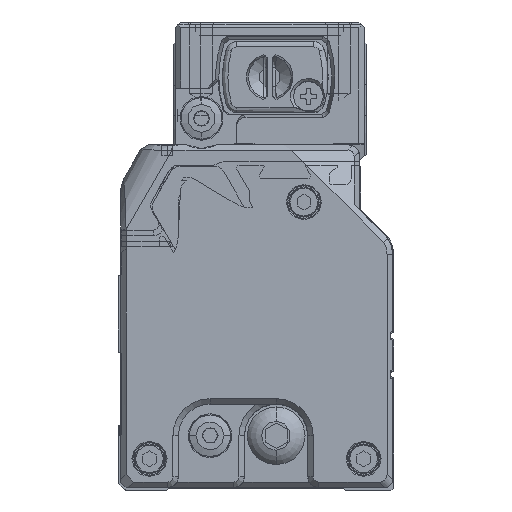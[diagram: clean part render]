
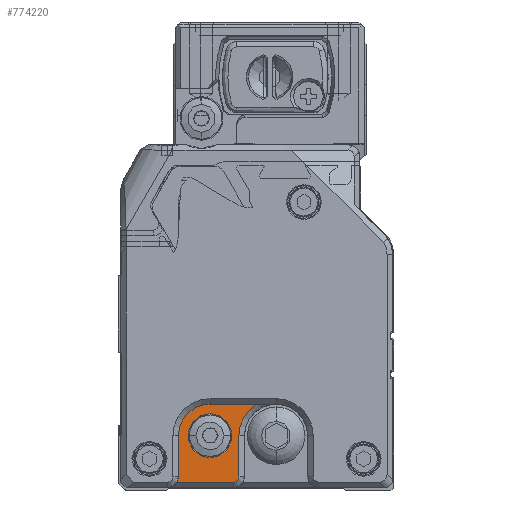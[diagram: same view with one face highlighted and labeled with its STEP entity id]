
A CAD part, left-side view. The second image highlights one B-rep face of the part: STEP entity #774220.
In plain terms, the highlighted planar face has unit normal (-1, 0, 0) as drawn and (1, 0, 0) by its records, which use the part's own axes.
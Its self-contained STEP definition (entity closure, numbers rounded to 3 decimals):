
#772670=CARTESIAN_POINT('',(4264.177,2.462,
3.148));
#772680=DIRECTION('',(-1.,0.,0.));
#772690=DIRECTION('',(0.,1.,0.));
#772700=AXIS2_PLACEMENT_3D('',#772670,#772680,#772690);
#772710=CIRCLE('',#772700,5.75);
#772720=CARTESIAN_POINT('',(4264.177,8.212,
3.148));
#772730=VERTEX_POINT('',#772720);
#772740=CARTESIAN_POINT('',(4264.177,2.462,
-2.602));
#772750=VERTEX_POINT('',#772740);
#772760=EDGE_CURVE('',#772730,#772750,#772710,.T.);
#773170=CARTESIAN_POINT('',(4264.177,8.212,
3.148));
#773180=DIRECTION('',(0.,0.,1.));
#773190=VECTOR('',#773180,1.);
#773200=LINE('',#773170,#773190);
#773210=CARTESIAN_POINT('',(4264.177,8.212,
10.598));
#773220=VERTEX_POINT('',#773210);
#773230=EDGE_CURVE('',#772730,#773220,#773200,.T.);
#773490=CARTESIAN_POINT('',(4264.177,-5.938,
-12.8));
#773500=DIRECTION('',(-1.,0.,0.));
#773510=DIRECTION('',(0.,0.,-1.));
#773520=AXIS2_PLACEMENT_3D('',#773490,#773500,#773510);
#773530=PLANE('',#773520);
#773540=CARTESIAN_POINT('',(4264.177,4.212,
11.598));
#773550=DIRECTION('',(0.,-1.,0.));
#773560=VECTOR('',#773550,1.);
#773570=LINE('',#773540,#773560);
#773580=CARTESIAN_POINT('',(4264.177,8.48,
11.598));
#773590=VERTEX_POINT('',#773580);
#773600=CARTESIAN_POINT('',(4264.177,-1.788,
11.598));
#773610=VERTEX_POINT('',#773600);
#773620=EDGE_CURVE('',#773590,#773610,#773570,.T.);
#773630=ORIENTED_EDGE('',*,*,#773620,.T.);
#773640=CARTESIAN_POINT('',(4264.177,10.212,
10.598));
#773650=DIRECTION('',(-1.,0.,0.));
#773660=DIRECTION('',(0.,1.,0.));
#773670=AXIS2_PLACEMENT_3D('',#773640,#773650,#773660);
#773680=CIRCLE('',#773670,2.);
#773690=EDGE_CURVE('',#773220,#773590,#773680,.T.);
#773700=ORIENTED_EDGE('',*,*,#773690,.T.);
#773710=ORIENTED_EDGE('',*,*,#773230,.T.);
#773720=ORIENTED_EDGE('',*,*,#772760,.F.);
#773730=CARTESIAN_POINT('',(4264.177,-5.888,
-2.602));
#773740=DIRECTION('',(0.,1.,0.));
#773750=VECTOR('',#773740,1.);
#773760=LINE('',#773730,#773750);
#773770=CARTESIAN_POINT('',(4264.177,-6.002,
-2.602));
#773780=VERTEX_POINT('',#773770);
#773790=EDGE_CURVE('',#773780,#772750,#773760,.T.);
#773800=ORIENTED_EDGE('',*,*,#773790,.T.);
#773810=CARTESIAN_POINT('',(4264.177,-9.538,
3.148));
#773820=DIRECTION('',(-1.,0.,0.));
#773830=DIRECTION('',(0.,1.,0.));
#773840=AXIS2_PLACEMENT_3D('',#773810,#773820,#773830);
#773850=CIRCLE('',#773840,6.75);
#773860=CARTESIAN_POINT('',(4264.177,-2.788,
3.148));
#773870=VERTEX_POINT('',#773860);
#773880=EDGE_CURVE('',#773870,#773780,#773850,.T.);
#773890=ORIENTED_EDGE('',*,*,#773880,.T.);
#773900=CARTESIAN_POINT('',(4264.177,-2.788,
6.873));
#773910=DIRECTION('',(0.,0.,-1.));
#773920=VECTOR('',#773910,1.);
#773930=LINE('',#773900,#773920);
#773940=CARTESIAN_POINT('',(4264.177,-2.788,
10.598));
#773950=VERTEX_POINT('',#773940);
#773960=EDGE_CURVE('',#773950,#773870,#773930,.T.);
#773970=ORIENTED_EDGE('',*,*,#773960,.T.);
#773980=CARTESIAN_POINT('',(4264.177,-1.788,
10.598));
#773990=DIRECTION('',(-1.,0.,0.));
#774000=DIRECTION('',(0.,1.,0.));
#774010=AXIS2_PLACEMENT_3D('',#773980,#773990,#774000);
#774020=CIRCLE('',#774010,1.);
#774030=EDGE_CURVE('',#773950,#773610,#774020,.T.);
#774040=ORIENTED_EDGE('',*,*,#774030,.F.);
#774050=EDGE_LOOP('',(#774040,#773970,#773890,#773800,#773720,#773710,
#773700,#773630));
#774060=FACE_OUTER_BOUND('',#774050,.T.);
#774070=CARTESIAN_POINT('',(4264.177,2.462,
3.148));
#774080=DIRECTION('',(-1.,0.,0.));
#774090=DIRECTION('',(0.,0.,-1.));
#774100=AXIS2_PLACEMENT_3D('',#774070,#774080,#774090);
#774110=CIRCLE('',#774100,4.);
#774120=CARTESIAN_POINT('',(4264.177,2.462,
7.148));
#774130=VERTEX_POINT('',#774120);
#774140=CARTESIAN_POINT('',(4264.177,2.462,
-0.852));
#774150=VERTEX_POINT('',#774140);
#774160=EDGE_CURVE('',#774130,#774150,#774110,.T.);
#774170=ORIENTED_EDGE('',*,*,#774160,.T.);
#774180=EDGE_CURVE('',#774150,#774130,#774110,.T.);
#774190=ORIENTED_EDGE('',*,*,#774180,.T.);
#774200=EDGE_LOOP('',(#774190,#774170));
#774210=FACE_BOUND('',#774200,.T.);
#774220=ADVANCED_FACE('',(#774060,#774210),#773530,.F.);
